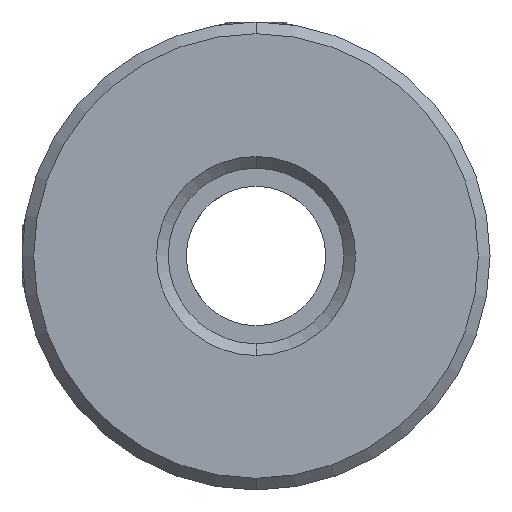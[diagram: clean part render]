
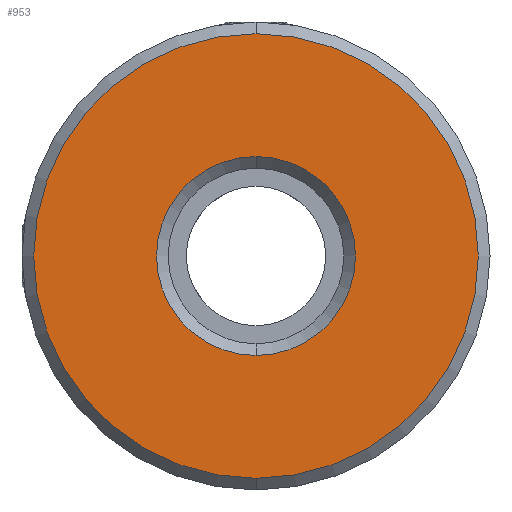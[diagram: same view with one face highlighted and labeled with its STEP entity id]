
A CAD part, front view. The second image highlights one B-rep face of the part: STEP entity #953.
In plain terms, the highlighted planar face has unit normal (0, -1, 0).
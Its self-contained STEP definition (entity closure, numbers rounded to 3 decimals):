
#9 = VERTEX_POINT ( 'NONE', #2594 ) ;
#207 = CARTESIAN_POINT ( 'NONE',  ( -10.188, -0.277, -15.154 ) ) ;
#249 = FACE_OUTER_BOUND ( 'NONE', #3131, .T. ) ;
#279 = EDGE_CURVE ( 'NONE', #297, #9, #2226, .T. ) ;
#297 = VERTEX_POINT ( 'NONE', #3719 ) ;
#300 = VERTEX_POINT ( 'NONE', #207 ) ;
#302 = ORIENTED_EDGE ( 'NONE', *, *, #3568, .T. ) ;
#370 = ORIENTED_EDGE ( 'NONE', *, *, #851, .T. ) ;
#420 = AXIS2_PLACEMENT_3D ( 'NONE', #3414, #3064, #805 ) ;
#466 = AXIS2_PLACEMENT_3D ( 'NONE', #1883, #662, #643 ) ;
#643 = DIRECTION ( 'NONE',  ( 0., 0., 1. ) ) ;
#648 = ORIENTED_EDGE ( 'NONE', *, *, #279, .T. ) ;
#662 = DIRECTION ( 'NONE',  ( 0., 1., 0. ) ) ;
#802 = EDGE_CURVE ( 'NONE', #300, #2443, #2924, .T. ) ;
#805 = DIRECTION ( 'NONE',  ( 0., 0., 1. ) ) ;
#851 = EDGE_CURVE ( 'NONE', #2443, #300, #1528, .T. ) ;
#953 = ADVANCED_FACE ( 'NONE', ( #249, #1399 ), #3742, .F. ) ;
#983 = AXIS2_PLACEMENT_3D ( 'NONE', #1979, #1736, #1417 ) ;
#1398 = CIRCLE ( 'NONE', #466, 6.8 ) ;
#1399 = FACE_BOUND ( 'NONE', #2907, .T. ) ;
#1417 = DIRECTION ( 'NONE',  ( 0., 0., 1. ) ) ;
#1472 = ORIENTED_EDGE ( 'NONE', *, *, #802, .T. ) ;
#1474 = AXIS2_PLACEMENT_3D ( 'NONE', #3076, #3057, #1659 ) ;
#1528 = CIRCLE ( 'NONE', #1474, 15.2 ) ;
#1659 = DIRECTION ( 'NONE',  ( 0., 0., 1. ) ) ;
#1736 = DIRECTION ( 'NONE',  ( 0., 1., 0. ) ) ;
#1883 = CARTESIAN_POINT ( 'NONE',  ( -10.188, -0.277, 0.046 ) ) ;
#1979 = CARTESIAN_POINT ( 'NONE',  ( -10.188, -0.277, 0.046 ) ) ;
#2014 = AXIS2_PLACEMENT_3D ( 'NONE', #2371, #2142, #3001 ) ;
#2142 = DIRECTION ( 'NONE',  ( 0., -1., 0. ) ) ;
#2226 = CIRCLE ( 'NONE', #420, 6.8 ) ;
#2371 = CARTESIAN_POINT ( 'NONE',  ( -10.188, -0.277, 0.046 ) ) ;
#2443 = VERTEX_POINT ( 'NONE', #2980 ) ;
#2594 = CARTESIAN_POINT ( 'NONE',  ( -10.188, -0.277, -6.754 ) ) ;
#2907 = EDGE_LOOP ( 'NONE', ( #302, #648 ) ) ;
#2924 = CIRCLE ( 'NONE', #2014, 15.2 ) ;
#2980 = CARTESIAN_POINT ( 'NONE',  ( -10.188, -0.277, 15.246 ) ) ;
#3001 = DIRECTION ( 'NONE',  ( 0., 0., 1. ) ) ;
#3057 = DIRECTION ( 'NONE',  ( 0., -1., 0. ) ) ;
#3064 = DIRECTION ( 'NONE',  ( 0., 1., 0. ) ) ;
#3076 = CARTESIAN_POINT ( 'NONE',  ( -10.188, -0.277, 0.046 ) ) ;
#3131 = EDGE_LOOP ( 'NONE', ( #370, #1472 ) ) ;
#3414 = CARTESIAN_POINT ( 'NONE',  ( -10.188, -0.277, 0.046 ) ) ;
#3568 = EDGE_CURVE ( 'NONE', #9, #297, #1398, .T. ) ;
#3719 = CARTESIAN_POINT ( 'NONE',  ( -10.188, -0.277, 6.846 ) ) ;
#3742 = PLANE ( 'NONE',  #983 ) ;
